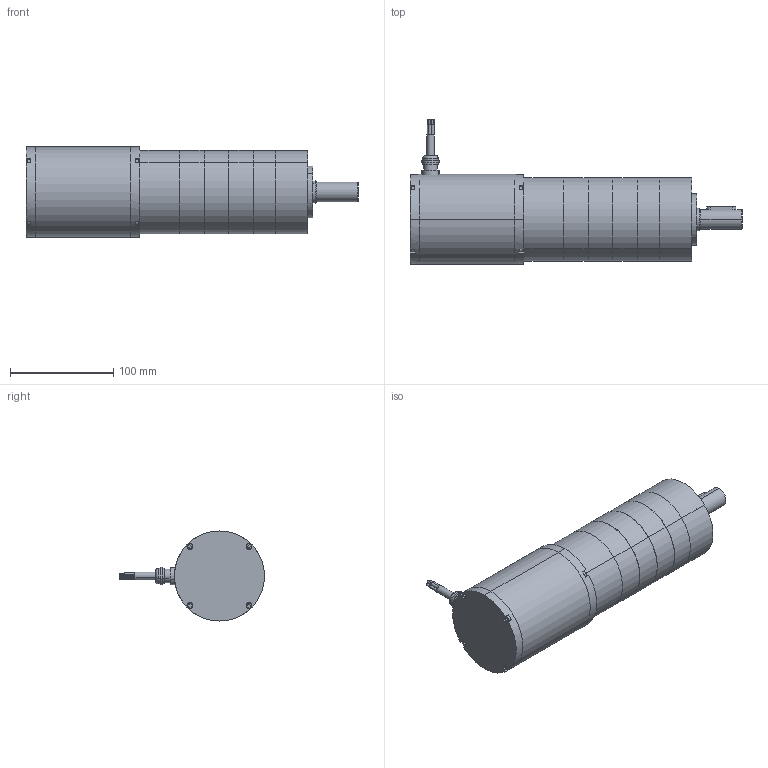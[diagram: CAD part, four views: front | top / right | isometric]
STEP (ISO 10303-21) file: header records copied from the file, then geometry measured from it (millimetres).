
FILE_DESCRIPTION (( 'STEP AP203' ), '1' );
FILE_NAME ('bl87500gp4.step', '2018-12-07T19:09:39', ( '' ), ( '' ), 'SwSTEP 2.0', 'SolidWorks 2017', '' );
FILE_SCHEMA (( 'CONFIG_CONTROL_DESIGN' ));
Length unit declared in the file: inch
Products named in the file (1): bl87500gp4
Bounding box: 322.19 x 140.68 x 87.38 mm (x, y, z)
Volume: 1537906.2 mm3; surface area: 169518.7 mm2
Topology: 22 solids, 22 shells, 480 faces, 1031 edges, 650 vertices
Faces by surface type: plane 206, cylinder 191, cone 81, torus 2
Entity records: 13175 total; most frequent: DIRECTION 2424, CARTESIAN_POINT 2346, ORIENTED_EDGE 2030, EDGE_CURVE 1015, AXIS2_PLACEMENT_3D 936, VERTEX_POINT 650, EDGE_LOOP 561, VECTOR 552
